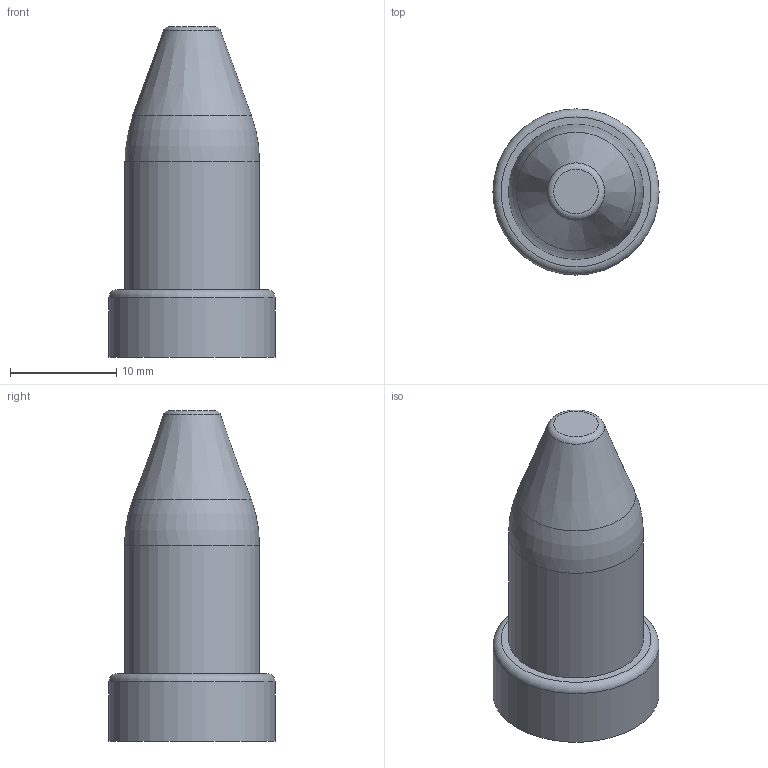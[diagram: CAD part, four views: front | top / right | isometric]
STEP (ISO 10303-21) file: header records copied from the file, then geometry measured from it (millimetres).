
FILE_DESCRIPTION (( 'STEP AP214' ), '1' );
FILE_NAME ('P-.500-.100-.625.STEP', '2023-11-07T10:59:42', ( '' ), ( '' ), 'SwSTEP 2.0', 'SolidWorks 2020', '' );
FILE_SCHEMA (( 'AUTOMOTIVE_DESIGN' ));
Length unit declared in the file: inch
Products named in the file (1): P-.500-.100-.625
Bounding box: 15.62 x 15.62 x 31.11 mm (x, y, z)
Volume: 3701.4 mm3; surface area: 1448.6 mm2
Topology: 1 solids, 1 shells, 9 faces, 14 edges, 8 vertices
Faces by surface type: plane 3, torus 3, cylinder 2, cone 1
Full cylindrical faces by diameter (mm): 12.7 x1, 15.621 x1
Entity records: 214 total; most frequent: DIRECTION 36, CARTESIAN_POINT 26, AXIS2_PLACEMENT_3D 18, EDGE_LOOP 16, ORIENTED_EDGE 16, FACE_OUTER_BOUND 14, ADVANCED_FACE 9, VERTEX_POINT 8
